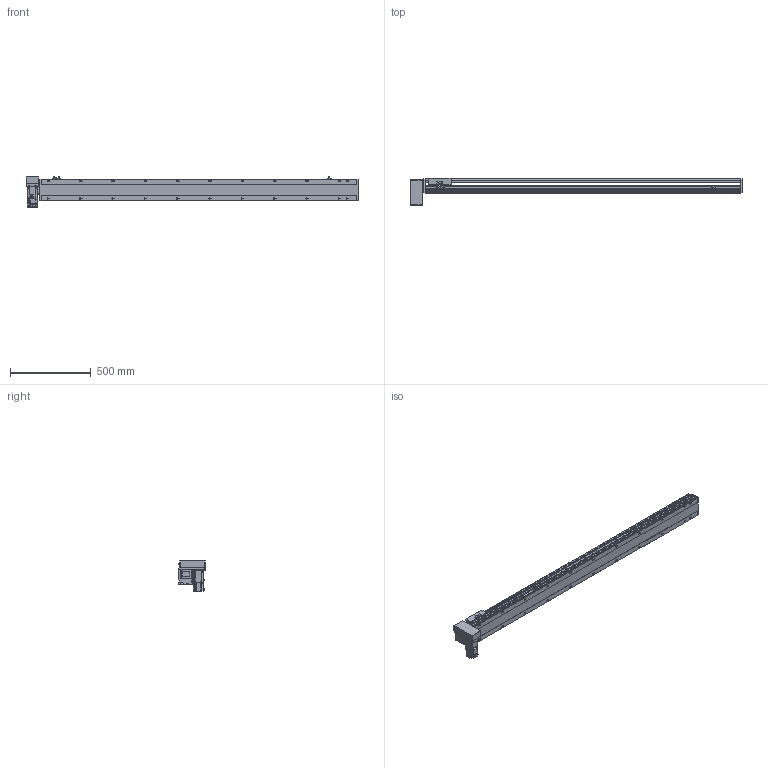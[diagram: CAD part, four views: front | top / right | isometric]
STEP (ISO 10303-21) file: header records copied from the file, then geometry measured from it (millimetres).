
FILE_DESCRIPTION( ( 'STEP AP214' ), '1' );
FILE_NAME( 'x:/temp/worker_6/temp/exporttempdir_5396_179_kEcXW/format_0/PBS140S-P40-S1700-RD-T40-C1-N(0).stp', '2022-06-09T00:44:03', ( 'License CC BY-ND 4.0' ), ( 'CADENAS' ), ' ', 'PARTsolutions', ' ' );
FILE_SCHEMA( ( 'AUTOMOTIVE_DESIGN { 1 0 10303 214 1 1 1 1 }' ) );
Length unit declared in the file: millimetre
Products named in the file (7): PBS140S-P40-S1700-RD-T40-C1-N(0); _PBS140S-S1700()_body; _PBS140ST-RD_motors; _T40-p1; _PBS140S_sliser; _PBS140S_plant; _PBS140S_sensor
Assembly tree (8 placements, depth 2):
  PBS140S-P40-S1700-RD-T40-C1-N(0)
    _PBS140S-S1700()_body
    _PBS140ST-RD_motors
    _T40-p1
    _PBS140S_sliser
    _PBS140S_plant
    _PBS140S_sensor  x3
Bounding box: 2054 x 172.5 x 189.7 mm (x, y, z)
Volume: 10225450.9 mm3; surface area: 1741370.9 mm2
Topology: 8 solids, 8 shells, 1147 faces, 3031 edges, 1983 vertices
Faces by surface type: plane 720, cylinder 369, cone 48, sphere 8, torus 2
Full cylindrical faces by diameter (mm): 3.242 x4, 4 x2, 4.134 x4, 4.4 x8, 4.5 x2, 4.8 x4, 4.917 x30, 5.5 x7, 6 x2, 7 x24, 7.5 x8, 8 x12, 8.5 x4, 10.5 x22, 14 x1, 30 x2, 50 x2
Entity records: 42262 total; most frequent: CARTESIAN_POINT 6910, DIRECTION 5558, ORIENTED_EDGE 5242, EDGE_CURVE 2621, AXIS2_PLACEMENT_3D 1949, VERTEX_POINT 1825, LINE 1660, VECTOR 1660
